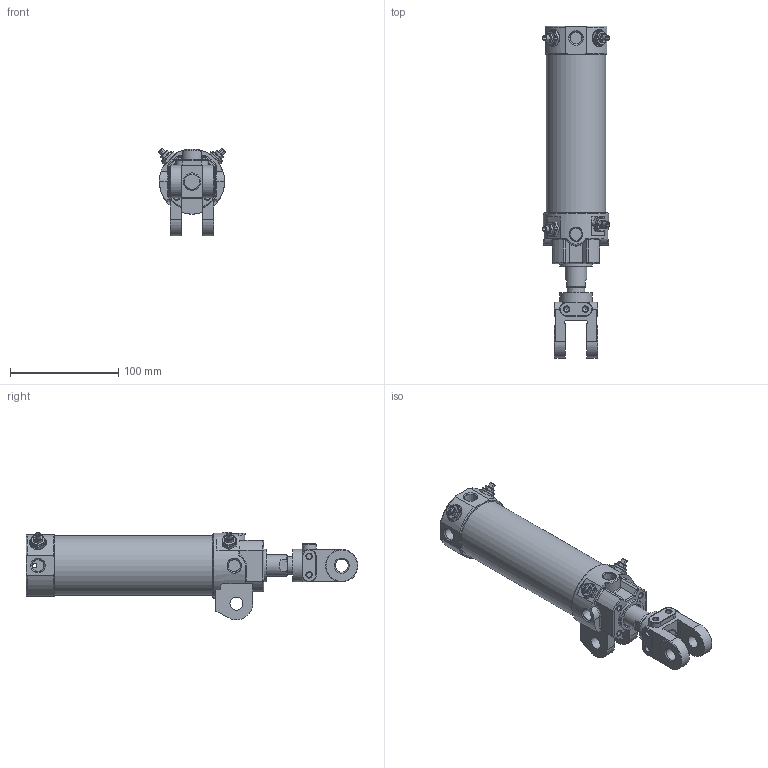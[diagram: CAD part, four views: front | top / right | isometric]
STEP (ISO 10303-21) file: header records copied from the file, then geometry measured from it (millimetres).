
FILE_DESCRIPTION((''),'2;1');
FILE_NAME('I:\3D電子目錄\氣缸\DCK\DCK\DCK-1B-50x100-Y.stp','2008-02-26T14:54:32',('Administrator'),(''),'Autodesk Inventor 11','Autodesk Inventor 11','');
FILE_SCHEMA(('AUTOMOTIVE_DESIGN { 1 0 10303 214 1 1 1 1 }'));
Length unit declared in the file: millimetre
Products named in the file (6): DCK-1B-50-Y; 緩衝針; 緩衝針-1; 緩衝針-201; 緩衝針-3
Assembly tree (8 placements, depth 3):
  DCK-1B-50-Y
    DCK-1B-50-Y
    緩衝針  x4
      緩衝針-1
      緩衝針-201
      緩衝針-3
Bounding box: 61.76 x 306 x 80.87 mm (x, y, z)
Volume: 279615.9 mm3; surface area: 120273.6 mm2
Topology: 15 solids, 15 shells, 647 faces, 1457 edges, 908 vertices
Faces by surface type: plane 240, cylinder 188, cone 143, bspline 40, torus 36
Full cylindrical faces by diameter (mm): 2 x2, 3 x4, 3.8 x2, 4 x6, 4.6 x4, 4.917 x2, 5 x8, 5.1 x4, 5.2 x12, 5.5 x4, 7.25 x1, 7.9 x4, 8 x2, 10.3 x1, 11.3 x1, 12 x6, 12.8 x4, 16 x3, 20 x1, 21 x1, 22 x2, 23 x1, 24.7 x1, 26 x1, 27 x1, 28 x1, 29 x1, 30 x4, 33 x1, 49.5 x1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
Entity records: 14021 total; most frequent: CARTESIAN_POINT 5596, DIRECTION 1727, ORIENTED_EDGE 1528, EDGE_CURVE 764, AXIS2_PLACEMENT_3D 739, EDGE_LOOP 608, VERTEX_POINT 550, FACE_OUTER_BOUND 398
